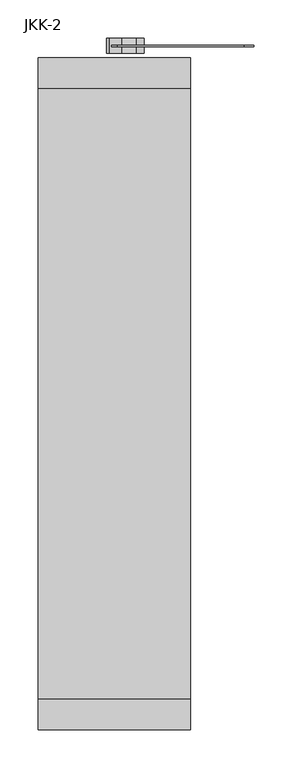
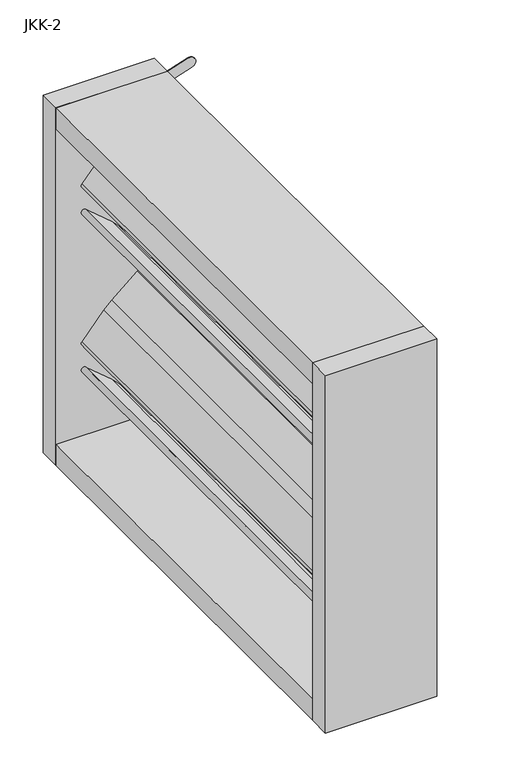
"""IFC4 building model written with IfcOpenShell, lengths in millimetres: air terminal geometry, DUA_UN_Volume control valve_SMA : JKK-2."""

from ifc_helpers import new_model, si_unit, point, frame, frame_2d, origin, place, context, project, spatial, polyline, circle_curve, trimmed, segment, composite_curve, outline, extrude, source, transform, mapped, element, save


def jkk_2_e62a3763(model_context):
    return source(origin(), model_context, "Body", "SweptSolid", [
        extrude(outline(composite_curve([segment(trimmed(circle_curve(frame_2d((-124.4973372, -49.4973648)), 4.999996), [point((-120.9610744, -53.0321639))], [point((-128.049648, -45.9786934))], False, "CARTESIAN"), True, "CONTINUOUS"), segment(polyline([(-128.049648, -45.9786934), (-89.1419286, 0.0004479), (-75.0154442, 14.1269322), (-29.0373356, 53.0337871)]), True, "CONTINUOUS"), segment(trimmed(circle_curve(frame_2d((-25.5024002, 49.4976802)), 4.999982), [point((-29.0373356, 53.0337871))], [point((-21.9828624, 45.9462477))], False, "CARTESIAN"), True, "CONTINUOUS"), segment(polyline([(-21.9828624, 45.9462477), (-60.85495, 0.0032675), (-75.0154442, -14.1572268), (-120.9610744, -53.0321639)]), True, "CONTINUOUS")], self_intersect=False)), frame((0.0, -400.0, 0.0), z_axis=(0.0, 1.0, 0.0), x_axis=(0.0, 0.0, 1.0)), (0.0, 0.0, 1.0), 800.0),
        extrude(outline(composite_curve([segment(trimmed(circle_curve(frame_2d((-274.5010629, 49.4803623)), 4.999996), [point((-278.0358621, 45.9440995))], [point((-270.9823915, 53.0326731))], False, "CARTESIAN"), True, "CONTINUOUS"), segment(polyline([(-270.9823915, 53.0326731), (-225.0032503, 14.1249537), (-210.8767659, -0.0015307), (-171.969911, -45.9796393)]), True, "CONTINUOUS"), segment(trimmed(circle_curve(frame_2d((-175.5060179, -49.5145747)), 4.999982), [point((-171.969911, -45.9796393))], [point((-179.0574505, -53.0341125))], False, "CARTESIAN"), True, "CONTINUOUS"), segment(polyline([(-179.0574505, -53.0341125), (-225.0004306, -14.162025), (-239.1609249, -0.0015307), (-278.0358621, 45.9440995)]), True, "CONTINUOUS")], self_intersect=False)), frame((0.0, -400.0, 0.0), z_axis=(0.0, 1.0, 0.0), x_axis=(0.0, 0.0, 1.0)), (0.0, 0.0, 1.0), 800.0),
        extrude(outline(composite_curve([segment(trimmed(circle_curve(frame_2d((25.4989371, 49.4803623)), 4.999996), [point((21.9641379, 45.9440995))], [point((29.0176085, 53.0326731))], False, "CARTESIAN"), True, "CONTINUOUS"), segment(polyline([(29.0176085, 53.0326731), (74.9967497, 14.1249537), (89.1232341, -0.0015307), (128.030089, -45.9796393)]), True, "CONTINUOUS"), segment(trimmed(circle_curve(frame_2d((124.4939821, -49.5145747)), 4.999982), [point((128.030089, -45.9796393))], [point((120.9425495, -53.0341125))], False, "CARTESIAN"), True, "CONTINUOUS"), segment(polyline([(120.9425495, -53.0341125), (74.9995694, -14.162025), (60.8390751, -0.0015307), (21.9641379, 45.9440995)]), True, "CONTINUOUS")], self_intersect=False)), frame((0.0, -400.0, 0.0), z_axis=(0.0, 1.0, 0.0), x_axis=(0.0, 0.0, 1.0)), (0.0, 0.0, 1.0), 800.0),
        extrude(outline(composite_curve([segment(trimmed(circle_curve(frame_2d((175.5026628, -49.4973648)), 4.999996), [point((179.0389256, -53.0321639))], [point((171.950352, -45.9786934))], False, "CARTESIAN"), True, "CONTINUOUS"), segment(polyline([(171.950352, -45.9786934), (210.8580714, 0.0004479), (224.9845558, 14.1269322), (270.9626644, 53.0337871)]), True, "CONTINUOUS"), segment(trimmed(circle_curve(frame_2d((274.4975998, 49.4976802)), 4.999982), [point((270.9626644, 53.0337871))], [point((278.0171376, 45.9462477))], False, "CARTESIAN"), True, "CONTINUOUS"), segment(polyline([(278.0171376, 45.9462477), (239.14505, 0.0032675), (224.9845558, -14.1572268), (179.0389256, -53.0321639)]), True, "CONTINUOUS")], self_intersect=False)), frame((0.0, -400.0, 0.0), z_axis=(0.0, 1.0, 0.0), x_axis=(0.0, 0.0, 1.0)), (0.0, 0.0, 1.0), 800.0),
        extrude(outline(composite_curve([segment(trimmed(circle_curve(frame_2d((224.9998951, 3.37e-05)), 73.9999961), [point((151.0141641, 1.4529722))], [point((208.3475382, 72.1020339))], False, "CARTESIAN"), True, "CONTINUOUS"), segment(trimmed(circle_curve(frame_2d((224.9999252, 7.85e-05)), 73.9999593), [point((208.3475382, 72.1020339))], [point((245.3314783, 71.1521826))], False, "CARTESIAN"), True, "CONTINUOUS"), segment(trimmed(circle_curve(frame_2d((224.999942, 7.97e-05)), 73.9999535), [point((245.3314783, 71.1521826))], [point((267.3121424, 60.7098055))], False, "CARTESIAN"), True, "CONTINUOUS"), segment(trimmed(circle_curve(frame_2d((264.423097, 56.6289407)), 5.0000041), [point((267.3121424, 60.7098055))], [point((269.1782961, 55.0835858))], False, "CARTESIAN"), True, "CONTINUOUS"), segment(polyline([(269.1782961, 55.0835858), (248.6084915, -8.2240179)]), True, "CONTINUOUS"), segment(trimmed(circle_curve(frame_2d((224.9999455, 7.2e-05)), 24.999982), [point((248.6084915, -8.2240179))], [point((217.7775519, -23.9339233))], False, "CARTESIAN"), True, "CONTINUOUS"), segment(polyline([(217.7775519, -23.9339233), (154.4687904, -3.3638083)]), True, "CONTINUOUS"), segment(trimmed(circle_curve(frame_2d((156.0138985, 1.3915564)), 5.0000852), [point((154.4687904, -3.3638083))], [point((151.6828691, -1.1070505))], False, "CARTESIAN"), True, "CONTINUOUS"), segment(trimmed(circle_curve(frame_2d((156.0138508, 1.3915954)), 5.0000634), [point((151.6828691, -1.1070505))], [point((151.0141641, 1.4529722))], False, "CARTESIAN"), True, "CONTINUOUS")], self_intersect=False)), frame((0.0, 406.0, 0.0), z_axis=(0.0, 1.0, 0.0), x_axis=(0.0, 0.0, 1.0)), (0.0, 0.0, 1.0), 9.75),
        extrude(outline(composite_curve([segment(trimmed(circle_curve(frame_2d((296.9708598, 172.9759519)), 10.0000277), [point((287.4737686, 176.1073753))], [point((306.4813972, 169.8856071))], False, "CARTESIAN"), True, "CONTINUOUS"), segment(polyline([(306.4813972, 169.8856071), (252.4022232, 3.451257)]), True, "CONTINUOUS"), segment(trimmed(circle_curve(frame_2d((242.8916535, 6.5416224)), 10.0000648), [point((252.4022232, 3.451257))], [point((233.3810801, 9.6319767))], False, "CARTESIAN"), True, "CONTINUOUS"), segment(polyline([(233.3810801, 9.6319767), (287.4737686, 176.1073753)]), True, "CONTINUOUS")], self_intersect=False)), frame((0.0, 454.514826, 0.0), z_axis=(0.0, 1.0, 0.0), x_axis=(0.0, 0.0, 1.0)), (0.0, 0.0, 1.0), 1.999998),
        extrude(outline(composite_curve([segment(trimmed(circle_curve(frame_2d((215.5858895, 44.639254)), 16.325228), [point((200.3081252, 38.8857344))], [point((216.2660419, 28.3282006))], True, "CARTESIAN"), True, "CONTINUOUS"), segment(trimmed(circle_curve(frame_2d((231.1379625, 21.59359)), 16.325716), [point((216.2660419, 28.3282006))], [point((220.0844243, 9.5790864))], True, "CARTESIAN"), True, "CONTINUOUS"), segment(trimmed(circle_curve(frame_2d((225.8382695, -5.698817)), 16.325473), [point((220.0844243, 9.5790864))], [point((209.5269565, -6.3786224))], True, "CARTESIAN"), True, "CONTINUOUS"), segment(trimmed(circle_curve(frame_2d((202.7929305, -21.250889)), 16.32579), [point((209.5269565, -6.3786224))], [point((190.7778563, -10.1978618))], True, "CARTESIAN"), True, "CONTINUOUS"), segment(trimmed(circle_curve(frame_2d((175.4999815, -15.951088)), 16.325228), [point((190.7778563, -10.1978618))], [point((174.8198297, 0.3599654))], True, "CARTESIAN"), True, "CONTINUOUS"), segment(trimmed(circle_curve(frame_2d((159.9479095, 7.094577)), 16.325716), [point((174.8198297, 0.3599654))], [point((171.0013641, 19.1091574))], True, "CARTESIAN"), True, "CONTINUOUS"), segment(trimmed(circle_curve(frame_2d((165.2476015, 34.387092)), 16.325473), [point((171.0013641, 19.1091574))], [point((181.5589131, 35.066933))], True, "CARTESIAN"), True, "CONTINUOUS"), segment(trimmed(circle_curve(frame_2d((188.2933025, 49.939035)), 16.32579), [point((181.5589131, 35.066933))], [point((200.3081252, 38.8857344))], True, "CARTESIAN"), True, "CONTINUOUS")], self_intersect=False)), frame((0.0, 445.514832, 0.0), z_axis=(0.0, 1.0, 0.0), x_axis=(0.0, 0.0, 1.0)), (0.0, 0.0, 1.0), 19.999986),
        extrude(outline(polyline([(100.0, 440.0), (100.0, 400.0), (-100.0, 400.0), (-100.0, 440.0), (100.0, 440.0)])), frame((0.0, 0.0, -340.0), z_axis=(0.0, 0.0, 1.0), x_axis=(1.0, 0.0, 0.0)), (0.0, 0.0, 1.0), 680.0),
        extrude(outline(polyline([(100.0, -440.0), (-100.0, -440.0), (-100.0, -400.0), (100.0, -400.0), (100.0, -440.0)])), frame((0.0, 0.0, -340.0), z_axis=(0.0, 0.0, 1.0), x_axis=(1.0, 0.0, 0.0)), (0.0, 0.0, 1.0), 680.0),
        extrude(outline(polyline([(-100.0, 400.0), (100.0, 400.0), (100.0, -400.0), (-100.0, -400.0), (-100.0, 400.0)])), frame((0.0, 0.0, -340.000246), z_axis=(0.0, 0.0, 1.0), x_axis=(1.0, 0.0, 0.0)), (0.0, 0.0, 1.0), 40.000246),
        extrude(outline(polyline([(-100.0, 400.0), (100.0, 400.0), (100.0, -400.0), (-100.0, -400.0), (-100.0, 400.0)])), frame((0.0, 0.0, 300.0), z_axis=(0.0, 0.0, 1.0), x_axis=(1.0, 0.0, 0.0)), (0.0, 0.0, 1.0), 39.999971),
    ])


if __name__ == "__main__":
    model = new_model("IFC4")
    model_context = context("Model", 3, world=origin())
    ifc_project = project(units=[si_unit("LENGTHUNIT", "METRE", prefix="MILLI")], contexts=[model_context])
    site = spatial("IfcSite", under=ifc_project)
    building = spatial("IfcBuilding", under=site)
    placement = place(None, origin())
    jkk_2_shape = jkk_2_e62a3763(model_context)
    element("IfcAirTerminal", 1, ObjectType="DUA_UN_Volume control valve_SMA : JKK-2", at=placement, inside=building, context=model_context, shape_type="MappedRepresentation", body=[
        mapped(jkk_2_shape, transform((0.0, 0.0, 0.0), x_axis=(1.0, 0.0, 0.0), y_axis=(0.0, 1.0, 0.0), z_axis=(0.0, 0.0, 1.0))),
    ])
    save(model, "model.ifc")
